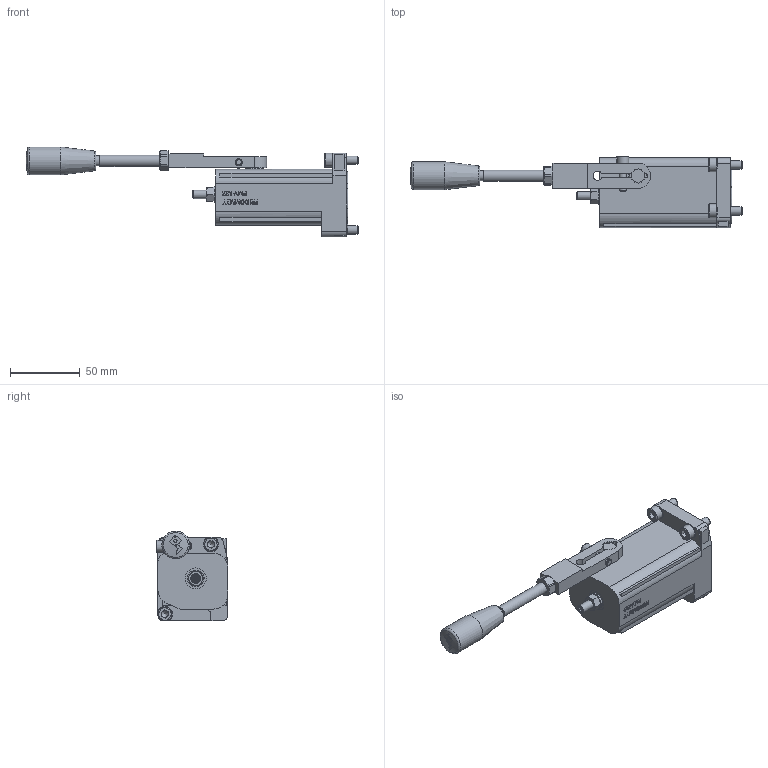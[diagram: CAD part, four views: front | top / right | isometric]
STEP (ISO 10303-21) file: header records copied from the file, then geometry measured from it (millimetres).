
FILE_DESCRIPTION (( 'STEP AP214' ), '1' );
FILE_NAME ('0304545.STEP', '2022-08-02T13:20:20', ( '' ), ( '' ), 'SwSTEP 2.0', 'SolidWorks 2020', '' );
FILE_SCHEMA (( 'AUTOMOTIVE_DESIGN' ));
Length unit declared in the file: millimetre
Products named in the file (13): 0074697_246.2320; 0287538_001; 0074288_153.1401; 0168771_001; 0074697_246.3119; 0073842_153.2301; 0290158_001; 0293401_002; 0304546^0293419_018; 0293444_002; 0287536_001; 0304545; 0074669_079.3112
Assembly tree (14 placements, depth 2):
  0304545
    0293401_002
    0293444_002
    0074669_079.3112
    0073842_153.2301
    0287536_001
    0287538_001
    0168771_001
    0074697_246.2320
    0074288_153.1401
    0290158_001
    0304546^0293419_018
    0074697_246.3119  x3
Bounding box: 238 x 51.2 x 64.46 mm (x, y, z)
Volume: 222409.4 mm3; surface area: 41657.3 mm2
Topology: 14 solids, 15 shells, 594 faces, 1448 edges, 928 vertices
Faces by surface type: plane 381, cylinder 90, cone 48, bspline 47, torus 27, sphere 1
Full cylindrical faces by diameter (mm): 4 x1, 4.2 x1, 4.47 x1, 5 x3, 5.1 x1, 6 x4, 6.6 x4, 6.8 x2, 7 x1, 7.12 x1, 7.8 x1, 8 x2, 8.03 x1, 8.5 x1, 10 x3, 12 x1, 12.5 x2, 13 x5, 15 x1, 20 x1
Entity records: 19198 total; most frequent: CARTESIAN_POINT 6197, ORIENTED_EDGE 2534, DIRECTION 2386, EDGE_CURVE 1267, VERTEX_POINT 853, LINE 842, VECTOR 842, AXIS2_PLACEMENT_3D 772
